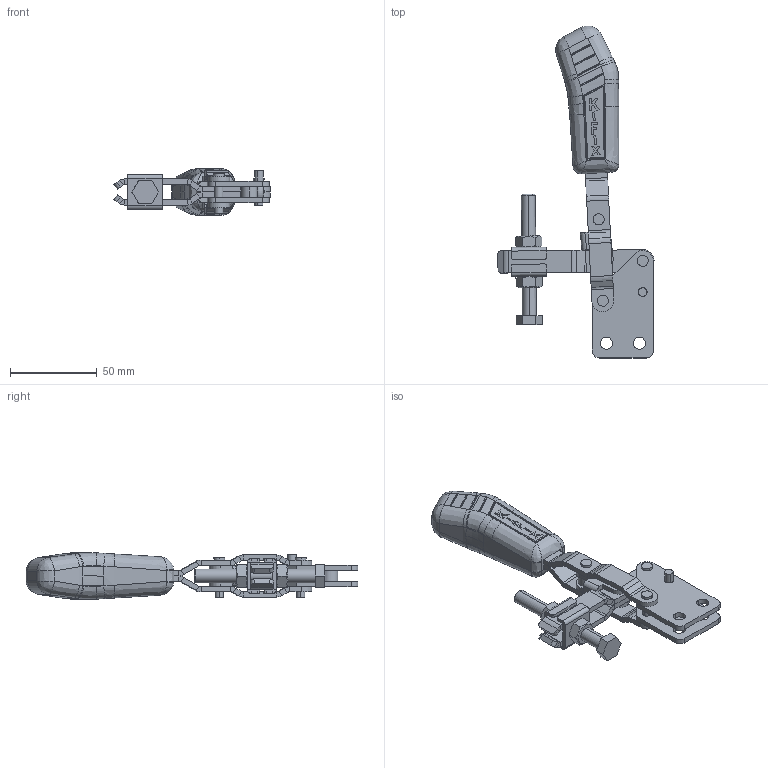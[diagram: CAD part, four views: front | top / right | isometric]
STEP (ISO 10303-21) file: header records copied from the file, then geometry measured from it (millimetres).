
FILE_DESCRIPTION (( 'STEP AP203' ), '1' );
FILE_NAME ('KF-017 RB.STEP', '2014-07-28T18:02:08', ( 'Ricardo' ), ( '' ), 'SwSTEP 2.0', 'SolidWorks 2013', '' );
FILE_SCHEMA (( 'CONFIG_CONTROL_DESIGN' ));
Length unit declared in the file: millimetre
Products named in the file (13): 11.50002; 02.11001; 12.50003; 03.13001; 07.60001; 06.50001; KF-017 RB; 05.20017; 01.10005; 04.10001; 06.50002; 04.20001; 14.10001
Assembly tree (20 placements, depth 2):
  KF-017 RB
    02.11001  x2
    03.13001  x2
    06.50001  x2
    05.20017  x2
    01.10005  x2
    04.10001
    06.50002  x2
    04.20001
    14.10001  x2
    11.50002  x2
    12.50003
    07.60001
Bounding box: 90.04 x 191.31 x 27.02 mm (x, y, z)
Volume: 84122.9 mm3; surface area: 45758.9 mm2
Topology: 20 solids, 20 shells, 774 faces, 1867 edges, 1148 vertices
Faces by surface type: plane 364, cylinder 241, bspline 126, cone 38, torus 5
Entity records: 22288 total; most frequent: CARTESIAN_POINT 8254, ORIENTED_EDGE 2856, DIRECTION 2170, EDGE_CURVE 1428, VERTEX_POINT 896, AXIS2_PLACEMENT_3D 766, LINE 638, VECTOR 638
